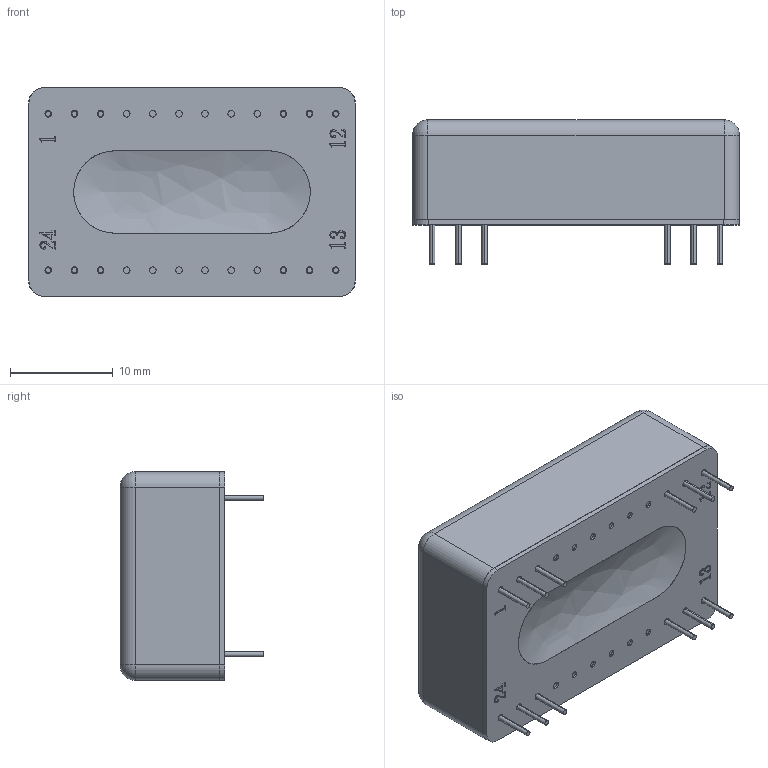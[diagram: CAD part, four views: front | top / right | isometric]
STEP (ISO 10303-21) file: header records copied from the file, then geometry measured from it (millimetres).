
FILE_DESCRIPTION (( 'STEP AP214' ), '1' );
FILE_NAME ('EC3AE05M²Õ¦X¥ó 100,08,12.STEP', '2017-07-24T05:46:29', ( 'user' ), ( 'SYNNEX' ), 'SwSTEP 2.0', 'SolidWorks 2008', '' );
FILE_SCHEMA (( 'AUTOMOTIVE_DESIGN' ));
Length unit declared in the file: millimetre
Products named in the file (4): EC3AE05M內部灌膠示意圖 100,08,12; CASE A示意圖G5100001000 100,08,12; EC3AE05M組合件 100,08,12; EC3AE05M BASE 示意圖
Assembly tree (3 placements, depth 2):
  EC3AE05M組合件 100,08,12
    CASE A示意圖G5100001000 100,08,12
    EC3AE05M BASE 示意圖
    EC3AE05M內部灌膠示意圖 100,08,12
Bounding box: 31.8 x 14 x 20.3 mm (x, y, z)
Volume: 6451.1 mm3; surface area: 6420.9 mm2
Topology: 3 solids, 3 shells, 456 faces, 1143 edges, 728 vertices
Faces by surface type: cylinder 156, plane 139, bspline 101, cone 48, sphere 12
Entity records: 17191 total; most frequent: CARTESIAN_POINT 6133, ORIENTED_EDGE 2262, DIRECTION 2001, EDGE_CURVE 1131, VERTEX_POINT 728, AXIS2_PLACEMENT_3D 723, VECTOR 555, LINE 555
